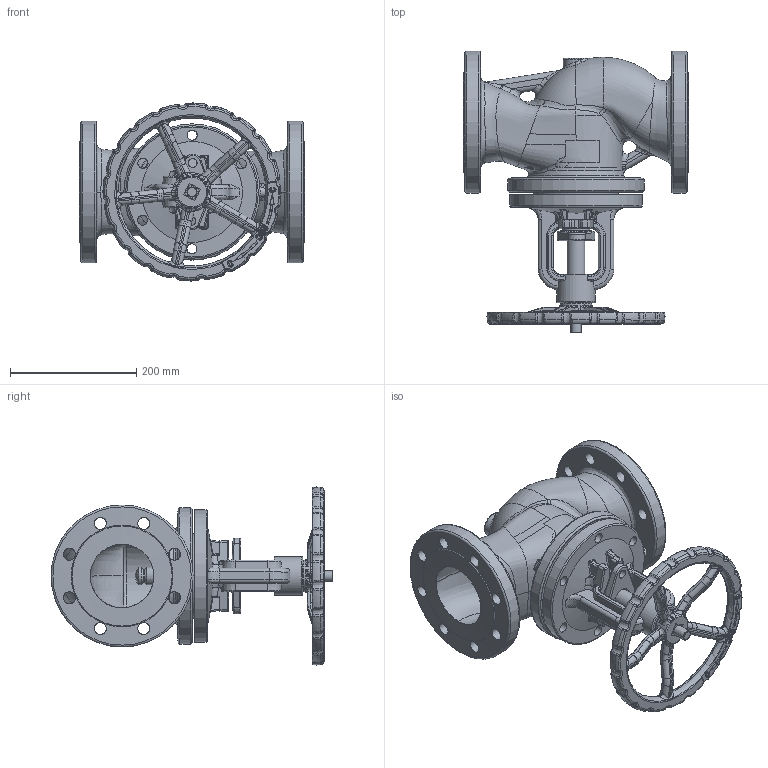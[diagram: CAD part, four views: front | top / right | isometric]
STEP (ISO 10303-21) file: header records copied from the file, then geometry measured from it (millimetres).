
FILE_DESCRIPTION(/* description */ ('STEP AP203'),/* implementation_level */ '2;1');
FILE_NAME(/* name */ '',/* time_stamp */ '2025-02-21T11:11:55+07:00',/* author */ ('Eva'),/* organization */ (''),/* preprocessor_version */ 'ST-DEVELOPER v20',/* originating_system */ 'Autodesk Inventor 2025',/* authorisation */ '');
FILE_SCHEMA (('AUTOMOTIVE_DESIGN { 1 0 10303 214 3 1 1 }'));
Products named in the file (7): 截止阀100; 截止阀100阀盖; 德标截止阀杆螺母100; 德标截止压盖100; 德标截止100阀杆; 100; YD.T-613-280.01-100-Q-手轮.stp
Assembly tree (6 placements, depth 2):
  截止阀100
    截止阀100阀盖
    德标截止阀杆螺母100
    德标截止压盖100
    德标截止100阀杆
    100
    YD.T-613-280.01-100-Q-手轮.stp
Bounding box: 357.01 x 446.29 x 281.94 mm (x, y, z)
Volume: 5766356.7 mm3; surface area: 842988.6 mm2
Topology: 6 solids, 6 shells, 1743 faces, 4406 edges, 2633 vertices
Faces by surface type: bspline 756, plane 364, cylinder 279, torus 210, cone 83, sphere 51
Full cylindrical faces by diameter (mm): 14 x2, 16 x13, 19 x16, 21 x1, 28 x4, 28.8 x1, 30 x1, 42 x1, 44 x2, 61 x1, 89.7 x1, 100.8 x3, 107.4 x1, 110 x1, 126 x1, 134.5 x1, 210 x1, 215.7 x1, 224.8 x2
Entity records: 259017 total; most frequent: CARTESIAN_POINT 221312, ORIENTED_EDGE 8762, DIRECTION 6869, EDGE_CURVE 4381, AXIS2_PLACEMENT_3D 2850, VERTEX_POINT 2633, EDGE_LOOP 1816, FACE_OUTER_BOUND 1743
